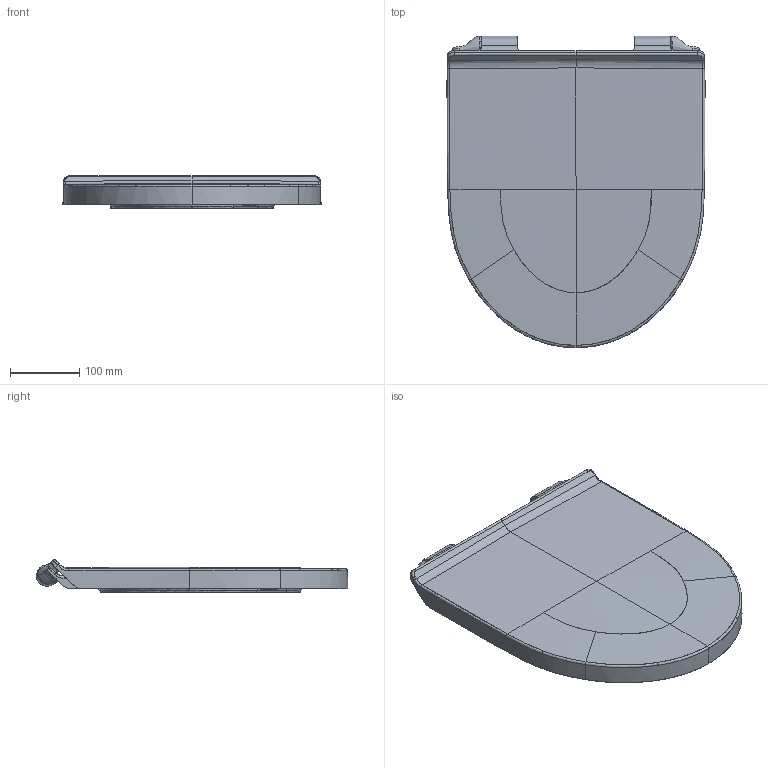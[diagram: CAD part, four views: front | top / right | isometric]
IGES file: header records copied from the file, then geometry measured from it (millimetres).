
Global section: file name: d:\users\matthias.isele\Desktop\Duravit_No_1\0020790000\3D\0020790000.igs; native system: Rhinoceros ( Sep 13 2016 ); preprocessor: Trout Lake IGES 012 Sep 13 2016; date: 230616.083611; units: millimetre
Bounding box: 371.72 x 448.62 x 47.17 mm (x, y, z)
Surface area: 561101.8 mm2 (no closed solid volume)
Topology: 0 solids, 0 shells, 503 faces, 3865 edges, 3865 vertices
Faces by surface type: bspline 503
